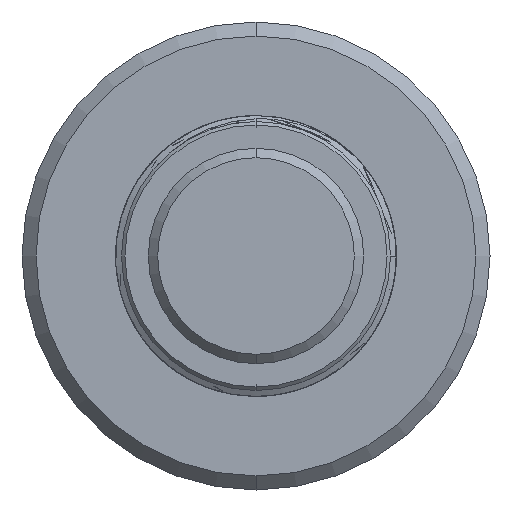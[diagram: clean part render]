
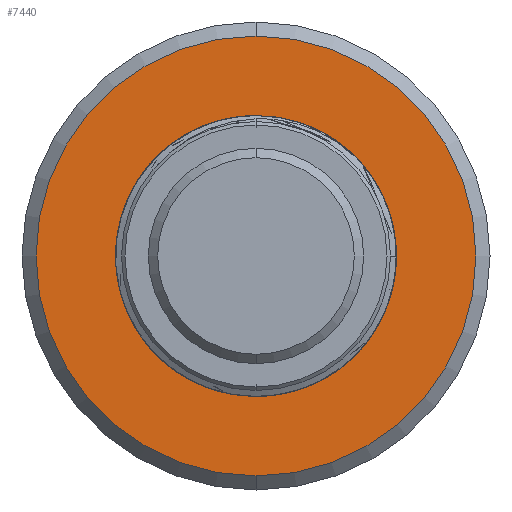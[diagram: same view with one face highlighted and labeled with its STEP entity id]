
A CAD part, front view. The second image highlights one B-rep face of the part: STEP entity #7440.
In plain terms, the highlighted planar face has unit normal (0, -1, 0).
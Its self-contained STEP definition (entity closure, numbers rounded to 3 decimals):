
#21 = EDGE_LOOP ( 'NONE', ( #4443, #310 ) ) ;
#128 = CARTESIAN_POINT ( 'NONE',  ( 0., 28., 0. ) ) ;
#149 = CARTESIAN_POINT ( 'NONE',  ( -2.572, 28., -1.594 ) ) ;
#310 = ORIENTED_EDGE ( 'NONE', *, *, #492, .T. ) ;
#467 = CARTESIAN_POINT ( 'NONE',  ( -1.533, 28., 2.377 ) ) ;
#492 = EDGE_CURVE ( 'NONE', #6108, #2430, #3862, .T. ) ;
#516 = CARTESIAN_POINT ( 'NONE',  ( -0.662, 28., 2.693 ) ) ;
#615 = CARTESIAN_POINT ( 'NONE',  ( -0.89, 28., 2.642 ) ) ;
#696 = CARTESIAN_POINT ( 'NONE',  ( 0.77, 28., -2.721 ) ) ;
#750 = CARTESIAN_POINT ( 'NONE',  ( 2.549, 28., 0.768 ) ) ;
#800 = CARTESIAN_POINT ( 'NONE',  ( 2.478, 28., -0.957 ) ) ;
#851 = CARTESIAN_POINT ( 'NONE',  ( 1.538, 28., 2.173 ) ) ;
#959 = DIRECTION ( 'NONE',  ( 0., 0., 1. ) ) ;
#1046 = VERTEX_POINT ( 'NONE', #4858 ) ;
#1069 = CARTESIAN_POINT ( 'NONE',  ( -1.875, 28., -2.334 ) ) ;
#1168 = CARTESIAN_POINT ( 'NONE',  ( 0., 28., -4.7 ) ) ;
#1237 = CARTESIAN_POINT ( 'NONE',  ( -2.538, 28., 1.432 ) ) ;
#1420 = B_SPLINE_CURVE_WITH_KNOTS ( 'NONE', 3,
 ( #2171, #2806, #4357, #7707, #5294, #516, #615, #6771, #467, #6923, #5345, #7553, #1237, #9286, #4567, #3784, #6973, #1966 ),
 .UNSPECIFIED., .F., .F.,
 ( 4, 2, 2, 2, 2, 2, 2, 2, 4 ),
 ( 0., 0.001, 0.001, 0.002, 0.003, 0.003, 0.004, 0.005, 0.006 ),
 .UNSPECIFIED. ) ;
#1421 = CARTESIAN_POINT ( 'NONE',  ( -0.602, 28., -2.852 ) ) ;
#1475 = CARTESIAN_POINT ( 'NONE',  ( 1.083, 28., 2.432 ) ) ;
#1966 = CARTESIAN_POINT ( 'NONE',  ( -2.998, 28., -0.101 ) ) ;
#2148 = CARTESIAN_POINT ( 'NONE',  ( 2.478, 28., -0.957 ) ) ;
#2171 = CARTESIAN_POINT ( 'NONE',  ( 0.918, 28., 2.493 ) ) ;
#2258 = CARTESIAN_POINT ( 'NONE',  ( 0.319, 28., -2.839 ) ) ;
#2365 = CARTESIAN_POINT ( 'NONE',  ( 0.918, 28., 2.493 ) ) ;
#2416 = CARTESIAN_POINT ( 'NONE',  ( 2.605, 28., -0.628 ) ) ;
#2430 = VERTEX_POINT ( 'NONE', #5229 ) ;
#2521 = FACE_OUTER_BOUND ( 'NONE', #21, .T. ) ;
#2556 = EDGE_CURVE ( 'NONE', #2575, #9307, #5342, .T. ) ;
#2575 = VERTEX_POINT ( 'NONE', #800 ) ;
#2780 = ORIENTED_EDGE ( 'NONE', *, *, #6112, .F. ) ;
#2786 = CARTESIAN_POINT ( 'NONE',  ( -2.054, 28., -2.185 ) ) ;
#2806 = CARTESIAN_POINT ( 'NONE',  ( 0.705, 28., 2.587 ) ) ;
#3061 = DIRECTION ( 'NONE',  ( 0., 1., 0. ) ) ;
#3206 = AXIS2_PLACEMENT_3D ( 'NONE', #128, #3061, #959 ) ;
#3212 = DIRECTION ( 'NONE',  ( 0., 0., 1. ) ) ;
#3784 = CARTESIAN_POINT ( 'NONE',  ( -2.962, 28., 0.364 ) ) ;
#3862 = CIRCLE ( 'NONE', #9056, 4.7 ) ;
#3922 = CARTESIAN_POINT ( 'NONE',  ( 1.24, 28., 2.355 ) ) ;
#4201 = CARTESIAN_POINT ( 'NONE',  ( -2.34, 28., -1.918 ) ) ;
#4357 = CARTESIAN_POINT ( 'NONE',  ( 0.485, 28., 2.653 ) ) ;
#4443 = ORIENTED_EDGE ( 'NONE', *, *, #7965, .T. ) ;
#4567 = CARTESIAN_POINT ( 'NONE',  ( -2.843, 28., 0.812 ) ) ;
#4615 = EDGE_LOOP ( 'NONE', ( #9539, #4723, #2780, #6046 ) ) ;
#4652 = CARTESIAN_POINT ( 'NONE',  ( 2.409, 28., -1.179 ) ) ;
#4723 = ORIENTED_EDGE ( 'NONE', *, *, #2556, .F. ) ;
#4745 = CARTESIAN_POINT ( 'NONE',  ( 0., 28., 0. ) ) ;
#4858 = CARTESIAN_POINT ( 'NONE',  ( -2.998, 28., -0.101 ) ) ;
#5229 = CARTESIAN_POINT ( 'NONE',  ( 0., 28., 4.7 ) ) ;
#5275 = CARTESIAN_POINT ( 'NONE',  ( -1.271, 28., -2.669 ) ) ;
#5294 = CARTESIAN_POINT ( 'NONE',  ( -0.204, 28., 2.735 ) ) ;
#5325 = CARTESIAN_POINT ( 'NONE',  ( -1.05, 28., -2.749 ) ) ;
#5342 = B_SPLINE_CURVE_WITH_KNOTS ( 'NONE', 3,
 ( #6427, #2416, #5583, #7997, #10301, #750, #8639, #8789, #6275, #5634, #851, #3922, #1475, #2365 ),
 .UNSPECIFIED., .F., .F.,
 ( 4, 2, 2, 2, 2, 2, 4 ),
 ( 0., 0.001, 0.002, 0.002, 0.003, 0.004, 0.004 ),
 .UNSPECIFIED. ) ;
#5345 = CARTESIAN_POINT ( 'NONE',  ( -2.091, 28., 1.966 ) ) ;
#5452 = B_SPLINE_CURVE_WITH_KNOTS ( 'NONE', 3,
 ( #9075, #8072, #5763, #149, #4201, #6554 ),
 .UNSPECIFIED., .F., .F.,
 ( 4, 2, 4 ),
 ( 0.755, 0.818, 0.88 ),
 .UNSPECIFIED. ) ;
#5574 = DIRECTION ( 'NONE',  ( 0., -1., 0. ) ) ;
#5583 = CARTESIAN_POINT ( 'NONE',  ( 2.665, 28., -0.274 ) ) ;
#5634 = CARTESIAN_POINT ( 'NONE',  ( 1.679, 28., 2.065 ) ) ;
#5763 = CARTESIAN_POINT ( 'NONE',  ( -2.894, 28., -0.881 ) ) ;
#6046 = ORIENTED_EDGE ( 'NONE', *, *, #9761, .F. ) ;
#6058 = VERTEX_POINT ( 'NONE', #2786 ) ;
#6108 = VERTEX_POINT ( 'NONE', #1168 ) ;
#6112 = EDGE_CURVE ( 'NONE', #6058, #2575, #7342, .T. ) ;
#6275 = CARTESIAN_POINT ( 'NONE',  ( 2.066, 28., 1.706 ) ) ;
#6314 = AXIS2_PLACEMENT_3D ( 'NONE', #4745, #5574, #8147 ) ;
#6427 = CARTESIAN_POINT ( 'NONE',  ( 2.478, 28., -0.957 ) ) ;
#6554 = CARTESIAN_POINT ( 'NONE',  ( -2.054, 28., -2.185 ) ) ;
#6771 = CARTESIAN_POINT ( 'NONE',  ( -1.326, 28., 2.484 ) ) ;
#6923 = CARTESIAN_POINT ( 'NONE',  ( -1.914, 28., 2.119 ) ) ;
#6954 = CARTESIAN_POINT ( 'NONE',  ( -1.683, 28., -2.46 ) ) ;
#6973 = CARTESIAN_POINT ( 'NONE',  ( -2.994, 28., 0.131 ) ) ;
#7179 = DIRECTION ( 'NONE',  ( 0., -1., 0. ) ) ;
#7330 = EDGE_CURVE ( 'NONE', #9307, #1046, #1420, .T. ) ;
#7342 = B_SPLINE_CURVE_WITH_KNOTS ( 'NONE', 3,
 ( #9010, #1069, #6954, #5275, #5325, #1421, #7845, #10097, #2258, #696, #10149, #9429, #8579, #8426, #9268, #9371, #4652, #2148 ),
 .UNSPECIFIED., .F., .F.,
 ( 4, 2, 2, 2, 2, 2, 2, 2, 4 ),
 ( 0., 0.001, 0.001, 0.002, 0.003, 0.003, 0.004, 0.005, 0.006 ),
 .UNSPECIFIED. ) ;
#7440 = ADVANCED_FACE ( 'NONE', ( #2521, #10221 ), #9680, .F. ) ;
#7553 = CARTESIAN_POINT ( 'NONE',  ( -2.403, 28., 1.622 ) ) ;
#7707 = CARTESIAN_POINT ( 'NONE',  ( 0.03, 28., 2.727 ) ) ;
#7845 = CARTESIAN_POINT ( 'NONE',  ( -0.369, 28., -2.877 ) ) ;
#7965 = EDGE_CURVE ( 'NONE', #2430, #6108, #8657, .T. ) ;
#7997 = CARTESIAN_POINT ( 'NONE',  ( 2.65, 28., 0.253 ) ) ;
#8072 = CARTESIAN_POINT ( 'NONE',  ( -2.985, 28., -0.492 ) ) ;
#8147 = DIRECTION ( 'NONE',  ( 0., 0., 1. ) ) ;
#8426 = CARTESIAN_POINT ( 'NONE',  ( 1.918, 28., -1.962 ) ) ;
#8579 = CARTESIAN_POINT ( 'NONE',  ( 1.579, 28., -2.28 ) ) ;
#8639 = CARTESIAN_POINT ( 'NONE',  ( 2.493, 28., 0.933 ) ) ;
#8657 = CIRCLE ( 'NONE', #6314, 4.7 ) ;
#8789 = CARTESIAN_POINT ( 'NONE',  ( 2.275, 28., 1.415 ) ) ;
#9010 = CARTESIAN_POINT ( 'NONE',  ( -2.054, 28., -2.185 ) ) ;
#9056 = AXIS2_PLACEMENT_3D ( 'NONE', #9755, #7179, #3212 ) ;
#9075 = CARTESIAN_POINT ( 'NONE',  ( -2.998, 28., -0.101 ) ) ;
#9268 = CARTESIAN_POINT ( 'NONE',  ( 2.068, 28., -1.78 ) ) ;
#9286 = CARTESIAN_POINT ( 'NONE',  ( -2.757, 28., 1.029 ) ) ;
#9307 = VERTEX_POINT ( 'NONE', #9799 ) ;
#9371 = CARTESIAN_POINT ( 'NONE',  ( 2.313, 28., -1.388 ) ) ;
#9429 = CARTESIAN_POINT ( 'NONE',  ( 1.392, 28., -2.413 ) ) ;
#9539 = ORIENTED_EDGE ( 'NONE', *, *, #7330, .F. ) ;
#9680 = PLANE ( 'NONE',  #3206 ) ;
#9755 = CARTESIAN_POINT ( 'NONE',  ( 0., 28., 0. ) ) ;
#9761 = EDGE_CURVE ( 'NONE', #1046, #6058, #5452, .T. ) ;
#9799 = CARTESIAN_POINT ( 'NONE',  ( 0.918, 28., 2.493 ) ) ;
#10097 = CARTESIAN_POINT ( 'NONE',  ( 0.092, 28., -2.87 ) ) ;
#10149 = CARTESIAN_POINT ( 'NONE',  ( 0.988, 28., -2.634 ) ) ;
#10221 = FACE_BOUND ( 'NONE', #4615, .T. ) ;
#10301 = CARTESIAN_POINT ( 'NONE',  ( 2.627, 28., 0.429 ) ) ;
